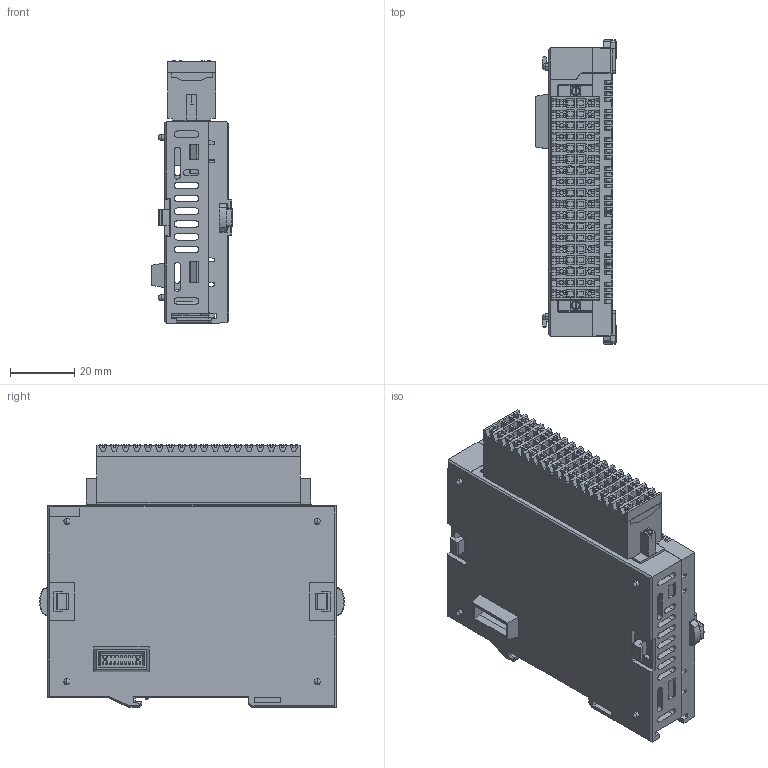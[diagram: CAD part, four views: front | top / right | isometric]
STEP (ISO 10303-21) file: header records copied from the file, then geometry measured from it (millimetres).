
FILE_DESCRIPTION (( 'STEP AP214' ), '1' );
FILE_NAME ('CM3-SP32EOC_TB type_寡ん辨_20211005.STEP', '2021-10-05T01:52:33', ( '' ), ( '' ), 'SwSTEP 2.0', 'SolidWorks 2021', '' );
FILE_SCHEMA (( 'AUTOMOTIVE_DESIGN' ));
Length unit declared in the file: millimetre
Products named in the file (9): CM3-SP32EOC_TB type_寡ん辨_20211005; 7.STEP; 4.STEP_A; 1.STEP_A; 2.STEP_A; 3.STEP_A; 8.STEP; 6.STEP; 5.STEP_A
Assembly tree (10 placements, depth 2):
  CM3-SP32EOC_TB type_寡ん辨_20211005
    1.STEP_A
    2.STEP_A
    3.STEP_A
    4.STEP_A  x2
    5.STEP_A  x2
    6.STEP
    7.STEP
    8.STEP
Bounding box: 25.13 x 95 x 81.95 mm (x, y, z)
Volume: 52943.1 mm3; surface area: 59430.4 mm2
Topology: 10 solids, 10 shells, 5191 faces, 13752 edges, 8785 vertices
Faces by surface type: plane 4609, cylinder 391, bspline 121, cone 44, torus 14, sphere 12
Entity records: 144576 total; most frequent: CARTESIAN_POINT 27531, ORIENTED_EDGE 25068, DIRECTION 22324, EDGE_CURVE 12534, VECTOR 11294, LINE 11294, VERTEX_POINT 8003, AXIS2_PLACEMENT_3D 5515
